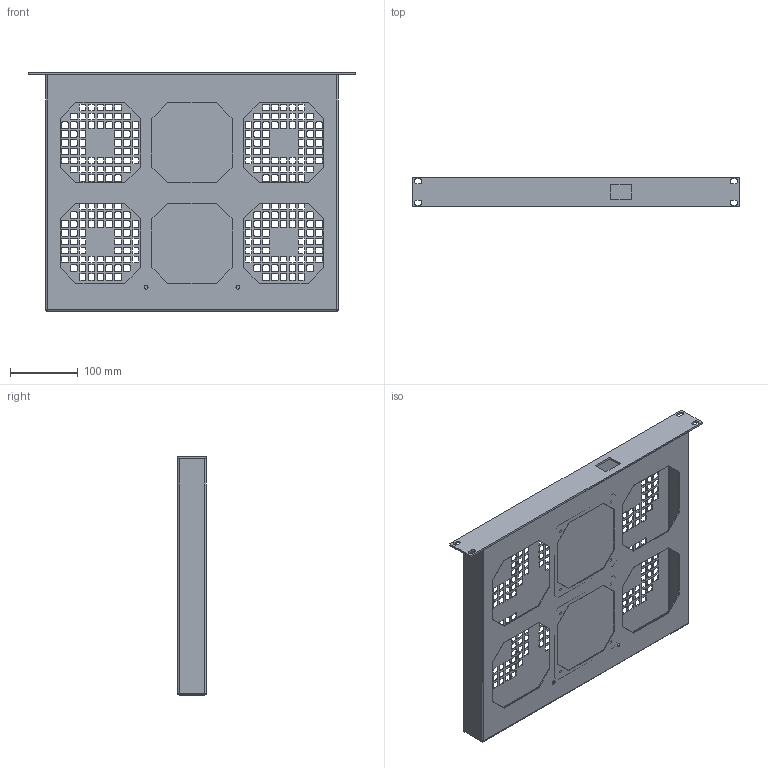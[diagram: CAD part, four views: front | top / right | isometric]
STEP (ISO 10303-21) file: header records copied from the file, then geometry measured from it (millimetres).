
FILE_DESCRIPTION (( 'STEP AP203' ), '1' );
FILE_NAME ('FI 04.230 D Ìîäóëü âåíòèëÿòîðíûé.STEP', '2013-01-14T12:41:57', ( 'Àëåêñàíäð' ), ( 'Ïðîâåíòî' ), 'SwSTEP 2.0', 'SolidWorks 2012', '' );
FILE_SCHEMA (( 'CONFIG_CONTROL_DESIGN' ));
Products named in the file (1): FI 04.230 D Ìîäóëü âåíòèëÿòîðíûé
Bounding box: 482.6 x 43.7 x 350.7 mm (x, y, z)
Volume: 380119.7 mm3; surface area: 596050.1 mm2
Topology: 3 solids, 3 shells, 3037 faces, 9068 edges, 6032 vertices
Faces by surface type: plane 1539, cylinder 1490, sphere 8
Entity records: 104379 total; most frequent: CARTESIAN_POINT 18130, ORIENTED_EDGE 18120, DIRECTION 18116, EDGE_CURVE 9060, VECTOR 6080, LINE 6080, VERTEX_POINT 6032, AXIS2_PLACEMENT_3D 6018
